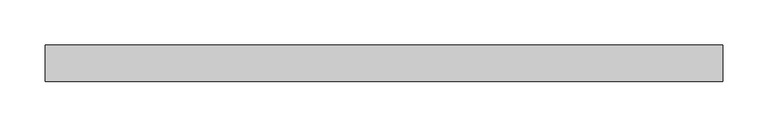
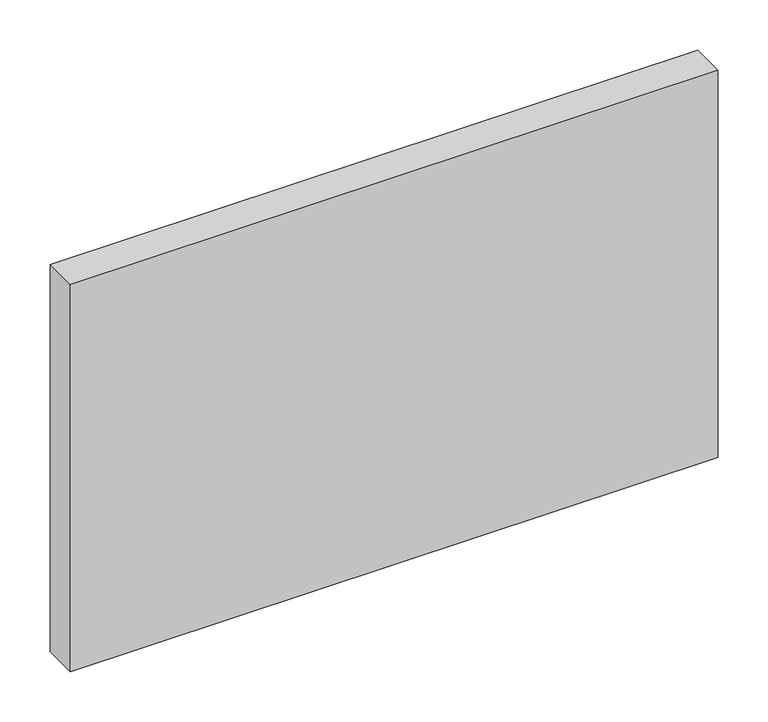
"""IFC4 building model written with IfcOpenShell, lengths in millimetres: plate geometry, Panneau système vide : Epaiss. 4cm."""

from ifc_helpers import new_model, si_unit, origin, origin_with_axes, place, context, project, spatial, polyline, outline, extrude, source, transform, mapped, element, save


def plate_255c63a8(model_context):
    return source(origin(), model_context, "Body", "SweptSolid", [
        extrude(outline(polyline([(372.3, -20.0), (-372.3, -20.0), (-372.3, 20.0), (372.3, 20.0), (372.3, -20.0)])), origin_with_axes(), (0.0, 0.0, 1.0), 471.361482),
    ])


if __name__ == "__main__":
    model = new_model("IFC4")
    model_context = context("Model", 3, world=origin())
    ifc_project = project(units=[si_unit("LENGTHUNIT", "METRE", prefix="MILLI")], contexts=[model_context])
    site = spatial("IfcSite", under=ifc_project)
    building = spatial("IfcBuilding", under=site)
    placement = place(None, origin())
    plate_shape = plate_255c63a8(model_context)
    element("IfcPlate", 1, ObjectType="Panneau système vide : Epaiss. 4cm", at=placement, inside=building, context=model_context, shape_type="MappedRepresentation", body=[
        mapped(plate_shape, transform((0.0, 0.0, 0.0), x_axis=(1.0, 0.0, 0.0), y_axis=(0.0, 1.0, 0.0), z_axis=(0.0, 0.0, 1.0))),
    ])
    save(model, "model.ifc")
